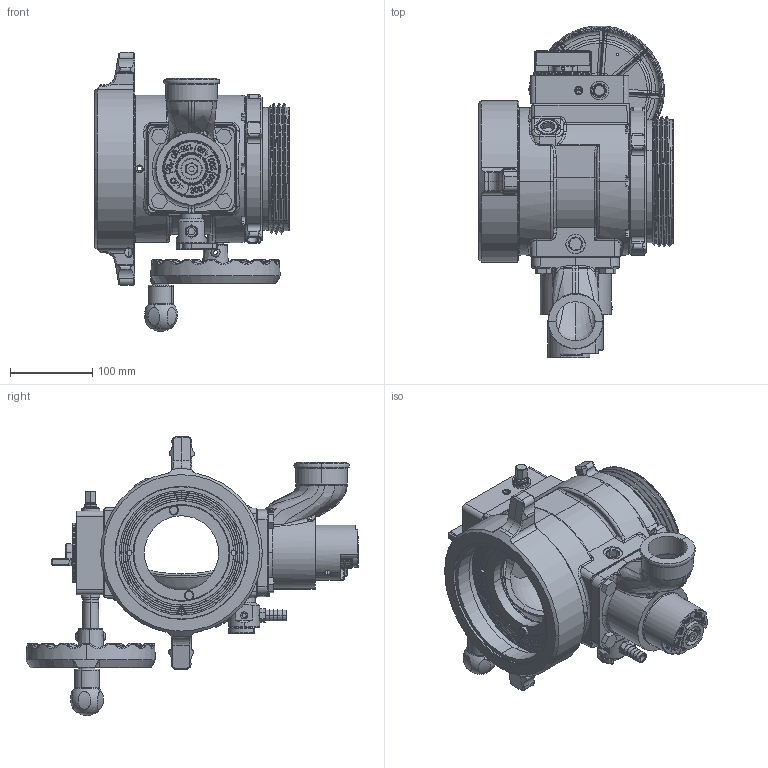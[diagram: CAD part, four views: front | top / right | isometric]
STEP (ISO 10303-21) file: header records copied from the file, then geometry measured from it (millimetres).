
FILE_DESCRIPTION (( 'STEP AP203' ), '1' );
FILE_NAME ('ABS8NT-NT.step', '2014-05-13T18:40:08', ( 'user' ), ( '' ), 'SwSTEP 2.0', 'SolidWorks 2012', '' );
FILE_SCHEMA (( 'CONFIG_CONTROL_DESIGN' ));
Length unit declared in the file: inch
Products named in the file (1): ABS8NT-NT
Bounding box: 236.93 x 404.19 x 339.81 mm (x, y, z)
Surface area: 578055.3 mm2 (no closed solid volume)
Topology: 0 solids, 134 shells, 2099 faces, 9577 edges, 7411 vertices
Faces by surface type: plane 691, cylinder 471, bspline 452, cone 289, torus 167, sphere 29
Entity records: 157115 total; most frequent: CARTESIAN_POINT 87254, ORIENTED_EDGE 13840, DIRECTION 12294, EDGE_CURVE 9547, VERTEX_POINT 7409, LINE 4798, VECTOR 4798, AXIS2_PLACEMENT_3D 3748
